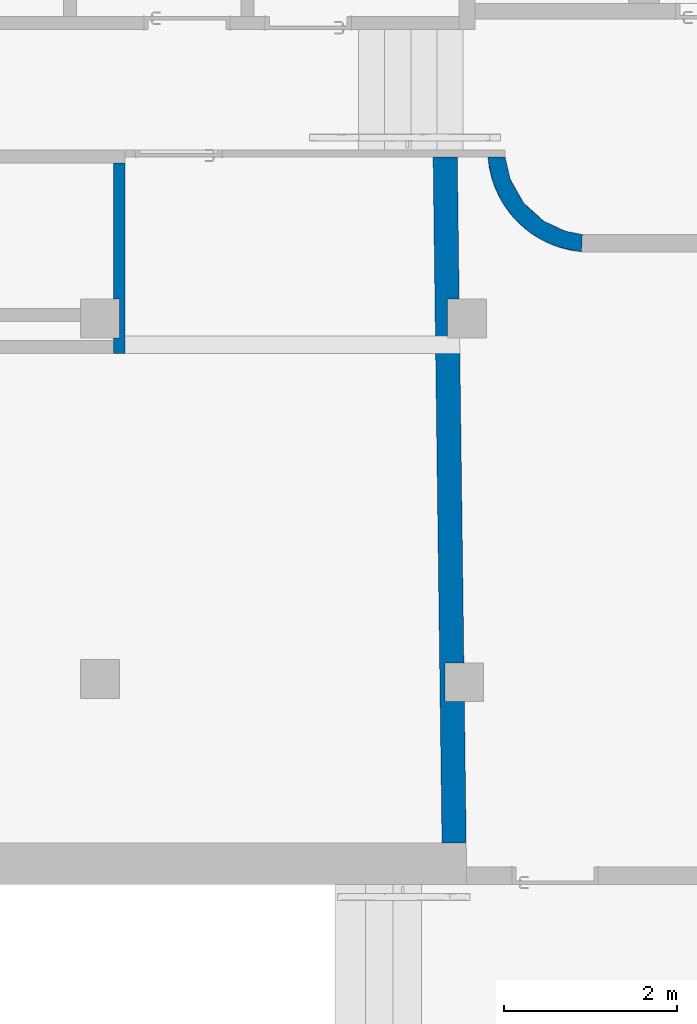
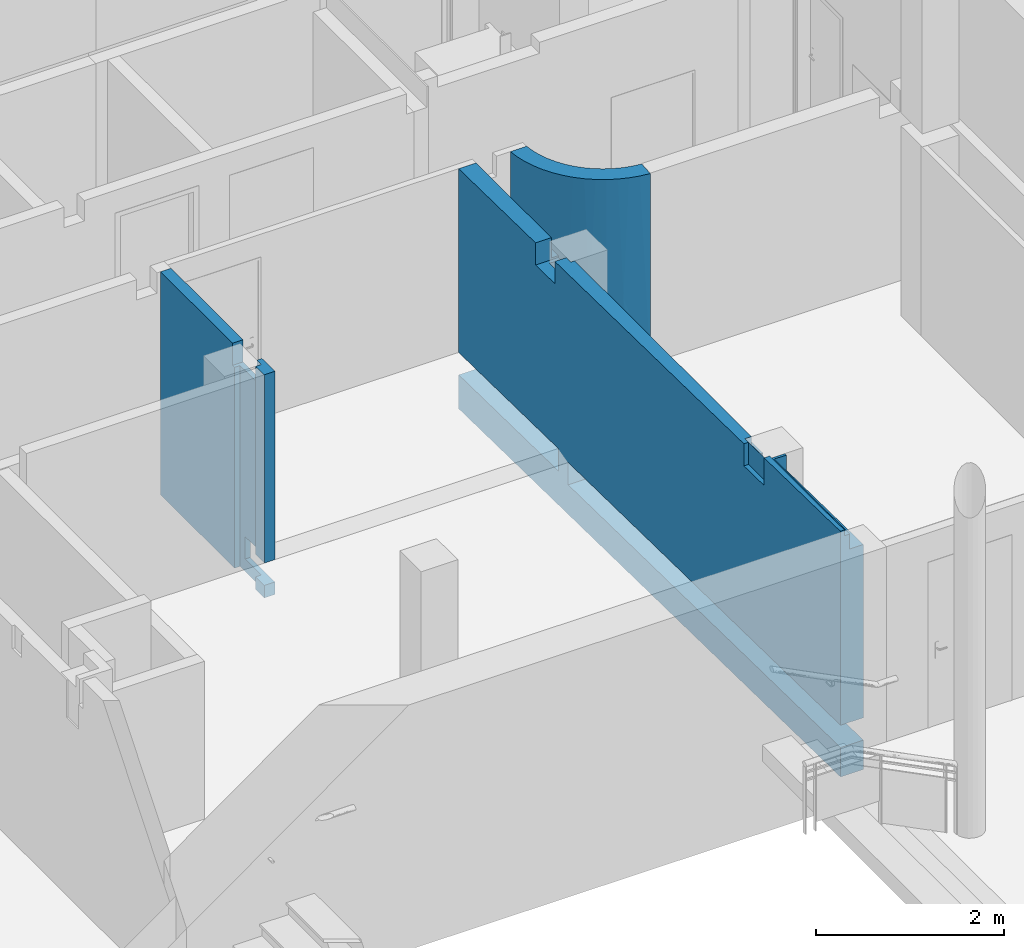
# One storey, part 28 of 39: 3 walls.
"""IFC4 building model written with IfcOpenShell, lengths in metres."""

import ifcopenshell
import ifcopenshell.guid

model = None  # the IFC model being written
_history = None  # IfcOwnerHistory: only IFC2X3 demands one
_inside = {}  # id of a spatial element -> (the spatial element, [elements in it])
_under = {}  # id of a project, library or spatial element -> (it, [spatial elements below it])
_declared = {}  # id of a project -> (the project, [libraries it declares])
_typed = {}  # id of a type object -> (the type object, [elements of that type])
_made_of = {}  # id of a material, layer set ... -> (it, [elements and type objects made of it])


def new_model(schema):
    """Start an empty IFC model of exactly this schema.

    Asked for "IFC4X3", IfcOpenShell would pick the latest addendum, in which some entities
    have other attributes; the version numbers below select the first issue.
    IFC2X3 requires an IfcOwnerHistory on every rooted entity: one is made here for all.
    """
    global model, _history
    if schema == "IFC4X3":
        model = ifcopenshell.file(schema_version=(4, 3, 0, 0))
    else:
        model = ifcopenshell.file(schema=schema)
    _inside.clear()
    _under.clear()
    _declared.clear()
    _typed.clear()
    _made_of.clear()
    _history = None
    if model.schema == "IFC2X3":
        org = make("IfcOrganization", Name="unknown")
        user = make(
            "IfcPersonAndOrganization",
            ThePerson=make("IfcPerson", FamilyName="unknown"),
            TheOrganization=org,
        )
        app = make(
            "IfcApplication",
            ApplicationDeveloper=org,
            Version="unknown",
            ApplicationFullName="unknown",
            ApplicationIdentifier="unknown",
        )
        _history = make(
            "IfcOwnerHistory",
            OwningUser=user,
            OwningApplication=app,
            ChangeAction="ADDED",
            CreationDate=0,
        )
    return model


def make(cls, **values):
    """One entity of the class cls with the attributes given. An attribute that is None is left unset."""
    return model.create_entity(
        cls, **{name: value for name, value in values.items() if value is not None}
    )


def entity(cls, *values):
    """Any entity or typed value of the class cls, its attributes in the order of the schema. None: left unset."""
    e = model.create_entity(cls)
    for i, value in enumerate(values):
        if value is not None:
            e[i] = value
    return e


def rooted(cls, **values):
    """An entity with a GlobalId (a new one), such as an element, a storey or a relation."""
    return make(cls, GlobalId=ifcopenshell.guid.new(), OwnerHistory=_history, **values)


def si_unit(unit_type, name, prefix=None):
    """IfcSIUnit, for example si_unit("LENGTHUNIT", "METRE", prefix="MILLI")."""
    return make("IfcSIUnit", UnitType=unit_type, Prefix=prefix, Name=name)


def converted_unit(unit_type, name, factor, base, dimensions=None, offset=None):
    """IfcConversionBasedUnit, such as the inch: factor (a typed value) times the base unit."""
    return make(
        "IfcConversionBasedUnit"
        if offset is None
        else "IfcConversionBasedUnitWithOffset",
        ConversionOffset=offset,
        Dimensions=None
        if dimensions is None
        else entity("IfcDimensionalExponents", *dimensions),
        UnitType=unit_type,
        Name=name,
        ConversionFactor=make(
            "IfcMeasureWithUnit", ValueComponent=factor, UnitComponent=base
        ),
    )


def derived_unit(unit_type, elements):
    """IfcDerivedUnit: a product of units, each with its exponent."""
    return make(
        "IfcDerivedUnit",
        Elements=[
            make("IfcDerivedUnitElement", Unit=unit, Exponent=power)
            for unit, power in elements
        ],
        UnitType=unit_type,
    )


def assignment(units):
    """IfcUnitAssignment: the units of a project."""
    return None if units is None else make("IfcUnitAssignment", Units=units)


def point(xyz):
    """IfcCartesianPoint."""
    return None if xyz is None else make("IfcCartesianPoint", Coordinates=xyz)


def direction(xyz):
    """IfcDirection."""
    return None if xyz is None else make("IfcDirection", DirectionRatios=xyz)


def frame(location, z_axis=None, x_axis=None):
    """IfcAxis2Placement3D, a coordinate frame: its origin and axes. An axis left out is left unset."""
    return make(
        "IfcAxis2Placement3D",
        Location=point(location),
        Axis=direction(z_axis),
        RefDirection=direction(x_axis),
    )


def origin():
    """The frame at (0, 0, 0) with its axes left unset."""
    return frame((0.0, 0.0, 0.0))


def place(relative_to, where):
    """IfcLocalPlacement: puts the frame where relative to a parent placement (None: the world)."""
    return make(
        "IfcLocalPlacement", PlacementRelTo=relative_to, RelativePlacement=where
    )


def context(
    kind, dimensions, precision=None, world=None, true_north=None, identifier=None
):
    """IfcGeometricRepresentationContext, for example the 3D "Model" context."""
    return make(
        "IfcGeometricRepresentationContext",
        ContextIdentifier=identifier,
        ContextType=kind,
        CoordinateSpaceDimension=dimensions,
        Precision=precision,
        WorldCoordinateSystem=world,
        TrueNorth=true_north,
    )


def subcontext(parent, identifier, kind, view, scale=None):
    """IfcGeometricRepresentationSubContext, for example "Body" below "Model"."""
    return make(
        "IfcGeometricRepresentationSubContext",
        ContextIdentifier=identifier,
        ContextType=kind,
        ParentContext=parent,
        TargetScale=scale,
        TargetView=view,
    )


def project(units=None, contexts=None):
    """IfcProject with its units and contexts."""
    return rooted(
        "IfcProject",
        Name="project",
        RepresentationContexts=contexts,
        UnitsInContext=assignment(units),
    )


def spatial(cls, under=None, at=None, **own):
    """A site, building, storey or space (cls), placed at a placement, below another one or the project."""
    s = rooted(cls, ObjectPlacement=at, **own)
    if under is not None:
        _under.setdefault(under.id(), (under, []))[1].append(s)
    return s


def point_list(points):
    """IfcCartesianPointList2D or 3D."""
    cls = (
        "IfcCartesianPointList2D" if len(points[0]) == 2 else "IfcCartesianPointList3D"
    )
    return make(cls, CoordList=points)


def polygons(points, faces, closed=None, point_numbers=None):
    """IfcPolygonalFaceSet: a face is its outer loop, then its inner loops; points numbered from 1."""
    made = []
    for loops in faces:
        if len(loops) == 1:
            made.append(make("IfcIndexedPolygonalFace", CoordIndex=loops[0]))
        else:
            made.append(
                make(
                    "IfcIndexedPolygonalFaceWithVoids",
                    CoordIndex=loops[0],
                    InnerCoordIndices=loops[1:],
                )
            )
    return make(
        "IfcPolygonalFaceSet",
        Coordinates=point_list(points),
        Closed=closed,
        Faces=made,
        PnIndex=point_numbers,
    )


def shape(context_of_items, identifier, shape_type, items):
    """IfcShapeRepresentation: the items that make up one representation, for example the "Body"."""
    return make(
        "IfcShapeRepresentation",
        ContextOfItems=context_of_items,
        RepresentationIdentifier=identifier,
        RepresentationType=shape_type,
        Items=items,
    )


def material(Name=None, Category=None):
    """IfcMaterial."""
    return make("IfcMaterial", Name=Name, Category=Category)


def layer(
    of_material, thickness, ventilated=None, Name=None, Category=None, Priority=None
):
    """IfcMaterialLayer: one layer of a wall or slab, of a material (None: an air gap)."""
    return make(
        "IfcMaterialLayer",
        Material=of_material,
        LayerThickness=thickness,
        IsVentilated=ventilated,
        Name=Name,
        Category=Category,
        Priority=Priority,
    )


def layer_set(layers, Name=None):
    """IfcMaterialLayerSet."""
    return make("IfcMaterialLayerSet", MaterialLayers=layers, LayerSetName=Name)


def made_of(thing, what):
    """Note that an element or type object is made of a material, layer set ...; save() writes the relation."""
    if what is not None:
        _made_of.setdefault(what.id(), (what, []))[1].append(thing)
    return thing


def type_object(cls, material=None, **own):
    """A type object (cls), such as IfcWallType, which elements share."""
    return made_of(rooted(cls, **own), material)


def element(
    cls,
    number,
    at=None,
    inside=None,
    cuts=None,
    type_object=None,
    material=None,
    context=None,
    identifier="Body",
    shape_type=None,
    held_by="IfcProductDefinitionShape",
    body=None,
    shapes=None,
    **own,
):
    """One element of the class cls, such as IfcWall. Its Tag is "e" and its number.

    at: its placement. inside: the storey or other place that contains it. cuts: it is an
    opening in that element (IfcRelVoidsElement). A single representation is given by context,
    identifier, shape_type and body (its items); several are given by shapes. held_by: the class
    of the entity that holds the representations. save() writes the other relations.
    """
    e = rooted(cls, Tag="e%d" % number, ObjectPlacement=at, **own)
    if body is not None:
        shapes = [shape(context, identifier, shape_type, body)]
    if shapes is not None:
        e.Representation = make(held_by, Representations=shapes)
    if inside is not None:
        _inside.setdefault(inside.id(), (inside, []))[1].append(e)
    if cuts is not None:
        rooted(
            "IfcRelVoidsElement", RelatingBuildingElement=cuts, RelatedOpeningElement=e
        )
    if type_object is not None:
        _typed.setdefault(type_object.id(), (type_object, []))[1].append(e)
    return made_of(e, material)


def aggregate(whole, parts):
    """IfcRelAggregates: a whole, such as a stair, and the parts it consists of."""
    return rooted("IfcRelAggregates", RelatingObject=whole, RelatedObjects=parts)


def save(model, path):
    """Write the relations noted so far, then the file.

    IfcRelAggregates (storeys below a building ...), IfcRelContainedInSpatialStructure (elements
    in a storey), IfcRelDefinesByType, IfcRelAssociatesMaterial and IfcRelDeclares: one each for
    every whole, place, type object, material and project.
    """
    for whole, parts in _under.values():
        aggregate(whole, parts)
    for where, things in _inside.values():
        rooted(
            "IfcRelContainedInSpatialStructure",
            RelatedElements=things,
            RelatingStructure=where,
        )
    for kind, things in _typed.values():
        rooted("IfcRelDefinesByType", RelatedObjects=things, RelatingType=kind)
    for what, things in _made_of.values():
        rooted("IfcRelAssociatesMaterial", RelatedObjects=things, RelatingMaterial=what)
    for by, libraries in _declared.values():
        rooted("IfcRelDeclares", RelatingContext=by, RelatedDefinitions=libraries)
    model.write(path)


model = new_model("IFC4")

# Units and contexts
model_context = context("Model", 3, precision=1e-05, world=origin(), true_north=direction((6.12303176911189e-17, 1.0)))
body_context = subcontext(model_context, "Body", "Model", "MODEL_VIEW")
ifc_project = project(units=[si_unit("LENGTHUNIT", "METRE"), si_unit("AREAUNIT", "SQUARE_METRE"), si_unit("VOLUMEUNIT", "CUBIC_METRE"), converted_unit("PLANEANGLEUNIT", "DEGREE", entity("IfcRatioMeasure", 0.0174532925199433), si_unit("PLANEANGLEUNIT", "RADIAN"), dimensions=[0, 0, 0, 0, 0, 0, 0]), si_unit("MASSUNIT", "GRAM", prefix="KILO"), derived_unit("MASSDENSITYUNIT", [(si_unit("MASSUNIT", "GRAM", prefix="KILO"), 1), (si_unit("LENGTHUNIT", "METRE"), -3)]), derived_unit("MOMENTOFINERTIAUNIT", [(si_unit("LENGTHUNIT", "METRE"), 4)]), si_unit("TIMEUNIT", "SECOND"), si_unit("FREQUENCYUNIT", "HERTZ"), si_unit("THERMODYNAMICTEMPERATUREUNIT", "DEGREE_CELSIUS"), derived_unit("THERMALTRANSMITTANCEUNIT", [(si_unit("MASSUNIT", "GRAM", prefix="KILO"), 1), (si_unit("THERMODYNAMICTEMPERATUREUNIT", "KELVIN"), -1), (si_unit("TIMEUNIT", "SECOND"), -3)]), derived_unit("VOLUMETRICFLOWRATEUNIT", [(si_unit("LENGTHUNIT", "METRE"), 3), (si_unit("TIMEUNIT", "SECOND"), -1)]), si_unit("ELECTRICCURRENTUNIT", "AMPERE"), si_unit("ELECTRICVOLTAGEUNIT", "VOLT"), si_unit("POWERUNIT", "WATT"), si_unit("FORCEUNIT", "NEWTON", prefix="KILO"), si_unit("ILLUMINANCEUNIT", "LUX"), si_unit("LUMINOUSFLUXUNIT", "LUMEN"), si_unit("LUMINOUSINTENSITYUNIT", "CANDELA"), derived_unit("USERDEFINED", [(si_unit("MASSUNIT", "GRAM", prefix="KILO"), -1), (si_unit("LENGTHUNIT", "METRE"), -2), (si_unit("TIMEUNIT", "SECOND"), 3), (si_unit("LUMINOUSFLUXUNIT", "LUMEN"), 1)]), derived_unit("LINEARVELOCITYUNIT", [(si_unit("LENGTHUNIT", "METRE"), 1), (si_unit("TIMEUNIT", "SECOND"), -1)]), si_unit("PRESSUREUNIT", "PASCAL"), derived_unit("USERDEFINED", [(si_unit("LENGTHUNIT", "METRE"), -2), (si_unit("MASSUNIT", "GRAM", prefix="KILO"), 1), (si_unit("TIMEUNIT", "SECOND"), -2)]), derived_unit("LINEARFORCEUNIT", [(si_unit("MASSUNIT", "GRAM", prefix="KILO"), 1), (si_unit("LENGTHUNIT", "METRE"), 1), (si_unit("TIMEUNIT", "SECOND"), -2), (si_unit("LENGTHUNIT", "METRE"), -1)]), derived_unit("PLANARFORCEUNIT", [(si_unit("MASSUNIT", "GRAM", prefix="KILO"), 1), (si_unit("LENGTHUNIT", "METRE"), 1), (si_unit("TIMEUNIT", "SECOND"), -2), (si_unit("LENGTHUNIT", "METRE"), -2)])], contexts=[model_context])

# Site, building, storey
site_placement = place(None, origin())
site = spatial("IfcSite", under=ifc_project, at=site_placement, Name="Default", CompositionType="ELEMENT")
building_placement = place(site_placement, origin())
building = spatial("IfcBuilding", under=site, at=building_placement, Name="HOTEL CONSULAIRE BOULOGNE SUR MER", CompositionType="ELEMENT")
storey_placement = place(building_placement, frame((0.0, 0.0, -5.02343668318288)))
storey = spatial("IfcBuildingStorey", under=building, at=storey_placement, Name="SS3", CompositionType="ELEMENT", Elevation=-5.02343668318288)

# Walls
ifc_material = material(Name="Mur par défaut", Category="Divers")
ifc_layer_1 = layer(ifc_material, 0.13, Name="Mur par défaut", Category="Divers")
ifc_layer_set_1 = layer_set([ifc_layer_1], Name="Mur de base:Générique - Int. 130 mm")
wall_type_1 = type_object("IfcWallType", Name="Mur de base:Générique - Int. 130 mm", PredefinedType="NOTDEFINED", material=ifc_layer_set_1)
wall_1_placement = place(storey_placement, frame((3.19305497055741, -16.0242732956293, -0.43), z_axis=(0.0, 0.0, 1.0), x_axis=(0.0, 1.0, 0.0)))
element("IfcWall", 1, at=wall_1_placement, inside=storey, type_object=wall_type_1, material=ifc_layer_set_1, Name="Mur de base:Générique - Int. 130 mm", ObjectType="Mur de base:Générique - Int. 130 mm", PredefinedType="NOTDEFINED", context=body_context, shape_type="Tessellation", body=[
    polygons([(2.16573425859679e-15, 0.0649999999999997, 0.0), (2.16573425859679e-15, -0.0650000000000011, 0.0), (2.16573425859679e-15, -0.0650000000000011, 0.162), (2.16573425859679e-15, 0.0649999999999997, 0.162), (0.183363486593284, 0.0649999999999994, 0.0), (0.183363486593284, 0.0649999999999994, 0.162), (2.16573425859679e-15, 0.0649999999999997, 2.89399047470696), (0.0, -0.0650000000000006, 2.89399047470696), (0.276363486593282, -0.0650000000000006, 2.89399047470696), (0.276363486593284, -0.00312180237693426, 2.89399047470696), (0.183363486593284, -0.00312180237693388, 2.89399047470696), (0.183363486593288, 0.065, 2.89399047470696), (0.150000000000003, 0.0649999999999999, 2.89399047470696), (0.183363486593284, -0.00312180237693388, 0.0), (0.183363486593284, -0.00312180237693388, 0.162), (0.183363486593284, 0.0649999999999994, 0.452), (2.16573425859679e-15, 0.0649999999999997, 0.452), (0.374363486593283, -0.0650000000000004, 0.0), (2.20536348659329, -0.0650000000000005, 0.0), (2.20536348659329, -0.0650000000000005, 2.89399047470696), (0.676363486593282, -0.0650000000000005, 2.89399047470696), (0.676363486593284, -0.0650000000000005, 2.60599999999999), (0.276363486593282, -0.0650000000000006, 2.60599999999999), (2.16573425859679e-15, -0.0650000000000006, 0.452), (0.524363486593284, -0.0650000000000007, 0.452), (0.524363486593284, -0.0650000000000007, 0.162), (2.20536348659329, 0.0649999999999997, 0.0), (0.633363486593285, 0.0649999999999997, 0.0), (0.633363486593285, 0.0649999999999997, 2.60599999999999), (0.676363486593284, 0.0649999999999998, 2.60599999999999), (0.676363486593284, 0.0649999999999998, 2.89399047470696), (2.20536348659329, 0.0649999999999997, 2.89399047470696), (0.633363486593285, -0.0031218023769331, 0.0), (0.524363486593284, -0.00312180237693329, 0.162), (0.524363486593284, -0.00312180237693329, 0.452), (0.183363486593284, -0.00312180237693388, 0.452), (0.276363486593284, -0.00312180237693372, 2.60599999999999), (0.633363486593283, -0.0031218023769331, 2.60599999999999)], [[[4, 1, 2, 3]], [[33, 38, 29, 28]], [[7, 17, 24, 8]], [[35, 34, 26, 25]], [[30, 22, 21, 31]], [[6, 5, 1, 4]], [[12, 16, 17, 7, 13]], [[32, 27, 28, 29, 30, 31]], [[37, 38, 33, 14, 15, 34, 35, 36, 11, 10]], [[9, 10, 11, 12, 13, 7, 8]], [[15, 6, 4, 3, 26, 34]], [[31, 21, 20, 32]], [[23, 22, 30, 29, 38, 37]], [[5, 6, 15, 14]], [[19, 27, 32, 20]], [[36, 16, 12, 11]], [[10, 9, 23, 37]], [[24, 25, 26, 3, 2, 18, 19, 20, 21, 22, 23, 9, 8]], [[2, 1, 5, 14, 33, 28, 27, 19, 18]], [[25, 24, 17, 16, 36, 35]]], closed=True),
])
ifc_layer_2 = layer(ifc_material, 0.2, Name="Mur par défaut", Category="Divers")
ifc_layer_set_2 = layer_set([ifc_layer_2], Name="Mur de base:Générique - Int.200")
wall_type_2 = type_object("IfcWallType", Name="Mur de base:Générique - Int.200", PredefinedType="NOTDEFINED", material=ifc_layer_set_2)
wall_2_placement = place(storey_placement, frame((7.56009348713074, -13.7413889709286, -0.649999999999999)))
element("IfcWall", 2, at=wall_2_placement, inside=storey, type_object=wall_type_2, material=ifc_layer_set_2, Name="Mur de base:Générique - Int.200", ObjectType="Mur de base:Générique - Int.200", PredefinedType="NOTDEFINED", context=body_context, shape_type="Tessellation", body=[
    polygons([(0.100966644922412, -0.00752083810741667, 0.0), (0.116098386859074, -0.111978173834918, 0.0), (0.142265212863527, -0.214230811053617, 0.0), (0.179169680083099, -0.313116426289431, 0.0), (0.226392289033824, -0.407510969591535, 0.0), (0.283396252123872, -0.496341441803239, 0.0), (0.349533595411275, -0.578598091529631, 0.0), (0.42405252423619, -0.653345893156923, 0.0), (0.506105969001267, -0.719735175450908, 0.0), (0.59476121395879, -0.777011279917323, 0.0), (0.689010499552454, -0.824523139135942, 0.0), (0.78778247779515, -0.861730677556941, 0.0), (0.889954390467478, -0.888210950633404, 0.0), (0.994364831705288, -0.903662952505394, 0.0), (0.985430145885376, -1.10366295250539, 0.0), (0.866722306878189, -1.08745185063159, 0.0), (0.750246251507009, -1.05938622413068, 0.0), (0.637182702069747, -1.01975057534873, 0.0), (0.528677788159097, -0.968946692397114, 0.0), (0.42583142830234, -0.907489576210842, 0.0), (0.329686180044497, -0.836002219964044, 0.0), (0.241216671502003, -0.755209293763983, 0.0), (0.161319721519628, -0.665929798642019, 0.0), (0.0908052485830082, -0.569068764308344, 0.0), (0.0303880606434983, -0.465608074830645, 0.0), (-0.0193193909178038, -0.35659651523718, 0.0), (-0.0578132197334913, -0.243139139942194, 0.0), (-0.0847032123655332, -0.1263860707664, 0.0), (-0.0997167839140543, -0.00752083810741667, 0.0), (0.100966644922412, -0.00752083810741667, 3.11399047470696), (0.116098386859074, -0.111978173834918, 3.11399047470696), (0.142265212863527, -0.214230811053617, 3.11399047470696), (0.179169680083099, -0.313116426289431, 3.11399047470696), (0.226392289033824, -0.407510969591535, 3.11399047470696), (0.283396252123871, -0.496341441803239, 3.11399047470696), (0.349533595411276, -0.578598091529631, 3.11399047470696), (0.42405252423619, -0.653345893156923, 3.11399047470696), (0.506105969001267, -0.719735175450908, 3.11399047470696), (0.59476121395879, -0.777011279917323, 3.11399047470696), (0.689010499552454, -0.824523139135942, 3.11399047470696), (0.78778247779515, -0.861730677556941, 3.11399047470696), (0.889954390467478, -0.888210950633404, 3.11399047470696), (0.994364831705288, -0.903662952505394, 3.11399047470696), (0.994364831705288, -0.903662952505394, 0.916746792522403), (0.549669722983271, -0.749555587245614, 1.55699523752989), (0.315367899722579, -0.538351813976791, 1.55699523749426), (0.100966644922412, -0.00752083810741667, 2.19724567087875), (0.159398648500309, -0.264165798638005, 1.5569952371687), (0.798673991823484, -0.865113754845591, 1.55699523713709), (0.985430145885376, -1.10366295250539, 0.359999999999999), (0.985430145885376, -1.10366295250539, 0.649999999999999), (0.985430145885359, -1.10366295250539, 3.11399047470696), (0.866722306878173, -1.08745185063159, 3.11399047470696), (0.750246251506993, -1.05938622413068, 3.11399047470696), (0.637182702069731, -1.01975057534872, 3.11399047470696), (0.528677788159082, -0.968946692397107, 3.11399047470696), (0.425831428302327, -0.907489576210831, 3.11399047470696), (0.329686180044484, -0.836002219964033, 3.11399047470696), (0.241216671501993, -0.75520929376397, 3.11399047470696), (0.161319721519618, -0.665929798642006, 3.11399047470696), (0.0908052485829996, -0.569068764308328, 3.11399047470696), (0.0303880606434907, -0.465608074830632, 3.11399047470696), (-0.0193193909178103, -0.356596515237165, 3.11399047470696), (-0.0578132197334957, -0.243139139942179, 3.11399047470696), (-0.0847032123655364, -0.126386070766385, 3.11399047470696), (-0.0997167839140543, -0.007520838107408, 3.11399047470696), (-0.0997167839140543, -0.007520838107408, 0.649999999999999), (-0.0997167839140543, -0.007520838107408, 0.359999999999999), (0.0592937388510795, -0.518099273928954, 1.55699523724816), (-0.0399951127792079, -0.300352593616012, 1.55699523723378), (0.20014386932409, -0.711575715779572, 1.55699523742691), (0.376858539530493, -0.872956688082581, 1.55699523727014), (0.693215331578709, -1.04099224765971, 1.55699523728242), (0.528677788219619, -0.968946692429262, 1.80994659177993)], [[[19, 20, 21, 22, 23, 24, 25, 26, 27, 28, 29, 1, 2, 3, 4, 5, 6, 7, 8, 9, 10, 11, 12, 13, 14, 15, 16, 17, 18]], [[49, 41, 42]], [[45, 40, 49]], [[45, 38, 39]], [[45, 39, 40]], [[45, 49, 11]], [[36, 37, 46]], [[37, 38, 45]], [[44, 14, 13]], [[10, 45, 11]], [[49, 42, 43]], [[8, 7, 46]], [[49, 44, 13]], [[48, 3, 2]], [[12, 11, 49]], [[9, 45, 10]], [[31, 47, 30]], [[47, 2, 1]], [[45, 9, 8]], [[34, 35, 46]], [[45, 46, 37]], [[12, 49, 13]], [[35, 36, 46]], [[34, 48, 33]], [[47, 31, 48]], [[33, 48, 32]], [[48, 5, 4]], [[46, 7, 6]], [[46, 6, 5]], [[40, 41, 49]], [[43, 44, 49]], [[48, 34, 46]], [[48, 46, 5]], [[48, 4, 3]], [[48, 2, 47]], [[46, 45, 8]], [[31, 32, 48]], [[68, 29, 28, 67]], [[66, 67, 65]], [[28, 27, 70]], [[25, 24, 69]], [[25, 69, 70, 26]], [[70, 27, 26]], [[71, 69, 24, 23]], [[64, 70, 63]], [[65, 67, 70]], [[67, 28, 70]], [[22, 71, 23]], [[65, 70, 64]], [[62, 63, 70, 69]], [[73, 17, 16]], [[58, 72, 57]], [[61, 69, 71, 60]], [[20, 19, 74]], [[74, 56, 57]], [[71, 59, 60]], [[22, 21, 72, 71]], [[72, 21, 20]], [[74, 19, 18]], [[55, 56, 74]], [[16, 51, 73]], [[73, 18, 17]], [[18, 73, 74]], [[50, 51, 16, 15]], [[53, 51, 52]], [[74, 72, 20]], [[74, 57, 72]], [[71, 72, 58, 59]], [[55, 74, 73]], [[53, 54, 73]], [[62, 69, 61]], [[53, 73, 51]], [[55, 73, 54]], [[1, 29, 68, 67, 66, 30, 47]], [[50, 15, 14, 44, 43, 52, 51]], [[63, 62, 61, 60, 59, 58, 57, 56, 55, 54, 53, 52, 43, 42, 41, 40, 39, 38, 37, 36, 35, 34, 33, 32, 31, 30, 66, 65, 64]]], closed=True),
])
ifc_layer_3 = layer(ifc_material, 0.28, Name="Mur par défaut", Category="Divers")
ifc_layer_set_3 = layer_set([ifc_layer_3], Name="Mur de base:Générique - Int. 280mm")
wall_type_3 = type_object("IfcWallType", Name="Mur de base:Générique - Int. 280mm", PredefinedType="NOTDEFINED", material=ifc_layer_set_3)
wall_3_placement = place(storey_placement, frame((7.06942401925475, -21.6910334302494, -0.649999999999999), z_axis=(0.0, 0.0, 1.0), x_axis=(-0.0129598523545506, 0.999916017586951, 0.0)))
element("IfcWall", 3, at=wall_3_placement, inside=storey, type_object=wall_type_3, material=ifc_layer_set_3, Name="Mur de base:Générique - Int. 280mm", ObjectType="Mur de base:Générique - Int. 280mm", PredefinedType="NOTDEFINED", context=body_context, shape_type="Tessellation", body=[
    polygons([(6.34184184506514, -0.14, 2.84999999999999), (6.34184184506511, -0.14, 2.82599999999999), (6.29583798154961, -0.14, 2.82599999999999), (6.29583798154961, -0.14, 0.73), (7.94097614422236, -0.14, 0.73), (7.94097614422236, -0.14, 2.84999999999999), (1.60398932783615, -0.14, 2.91999999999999), (0.0, -0.14, 2.91999999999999), (0.0, -0.14, 0.672), (1.63515635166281, -0.14, 0.672), (1.6351563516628, -0.139999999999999, 3.11399047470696), (1.60398932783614, -0.14, 3.11399047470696), (7.94183227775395, -0.0739451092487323, 2.84999999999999), (7.94460520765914, 0.14, 0.73), (7.94460520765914, 0.14, 3.11399047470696), (7.94183227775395, -0.0739451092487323, 3.11399047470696), (0.00218988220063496, 0.0289601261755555, 2.91999999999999), (0.00218988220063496, 0.0289601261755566, 3.11399047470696), (0.00301297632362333, 0.0924658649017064, 3.11399047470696), (0.00301297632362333, 0.0924658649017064, 3.18999999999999), (0.00362906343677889, 0.140000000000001, 3.18999999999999), (0.00362906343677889, 0.140000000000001, 0.672), (2.08703380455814, 0.00193858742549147, 2.84999999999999), (2.08519414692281, -0.139999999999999, 2.84999999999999), (5.84580018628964, -0.139999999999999, 2.84999999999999), (5.84700822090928, -0.0467942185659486, 2.84999999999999), (2.08703380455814, 0.00193858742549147, 3.11399047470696), (5.84700822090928, -0.0467942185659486, 3.11399047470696), (5.94543731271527, 0.140000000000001, 3.11399047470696), (2.01510723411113, 0.140000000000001, 3.11399047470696), (2.01435247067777, 0.0817663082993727, 3.11399047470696), (1.5973829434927, 0.0871706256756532, 3.11399047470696), (1.59718377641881, 0.0718039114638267, 3.11399047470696), (1.60590980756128, 0.00817440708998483, 3.11399047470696), (1.63808890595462, 0.0862609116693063, 3.11399047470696), (2.08805111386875, 0.0804289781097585, 3.11399047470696), (5.84761382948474, -6.85539187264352e-05, 3.11399047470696), (5.94360576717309, -0.00131269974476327, 3.11399047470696), (0.0, -0.14, 0.0), (7.94097614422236, -0.14, 0.0), (7.94097614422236, -0.14, 0.44), (5.86980220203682, -0.14, 0.44), (5.86980220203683, -0.139999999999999, 0.649999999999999), (5.84580018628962, -0.14, 0.649999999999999), (2.0851941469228, -0.14, 0.672), (5.66542155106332, -0.14, 0.672), (5.66542155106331, -0.139999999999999, 0.382), (0.0, -0.14, 0.382), (7.94460520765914, 0.140000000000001, 0.0), (0.00362906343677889, 0.140000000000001, 0.0), (0.00362906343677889, 0.140000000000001, 0.382), (5.6690506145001, 0.140000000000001, 0.382), (5.66905061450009, 0.140000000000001, 0.672), (0.0824769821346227, 0.140000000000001, 3.18999999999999), (0.082476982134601, 0.14, 3.18399047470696), (1.59507195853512, 0.140000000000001, 3.18399047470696), (1.59507195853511, 0.14, 2.82599999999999), (2.01510723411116, 0.140000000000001, 2.82599999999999), (5.94543731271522, 0.14, 2.82599999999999), (6.34547090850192, 0.140000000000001, 2.82599999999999), (6.34547090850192, 0.140000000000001, 3.11399047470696), (5.8734312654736, 0.140000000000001, 0.73), (5.87343126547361, 0.14, 0.44), (7.94460520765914, 0.140000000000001, 0.44), (0.081847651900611, 0.091444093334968, 3.18999999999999), (1.60590980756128, 0.00817440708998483, 2.91999999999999), (5.94360576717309, -0.00131269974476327, 2.82599999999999), (6.29757603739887, -0.0059004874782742, 2.82599999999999), (6.3429665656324, -0.0532223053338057, 2.84999999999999), (6.3429665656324, -0.0532223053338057, 3.11399047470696), (1.59438774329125, 0.087209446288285, 2.82599999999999), (1.59438774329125, 0.087209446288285, 3.18399047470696), (2.01435247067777, 0.0817663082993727, 2.82599999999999), (1.59718377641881, 0.0718039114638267, 3.18399047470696), (0.081847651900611, 0.091444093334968, 3.18399047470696), (1.5973829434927, 0.0871706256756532, 3.18399047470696), (1.63808890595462, 0.0862609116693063, 0.672), (2.08805111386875, 0.0804289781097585, 0.672), (5.84761382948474, -6.85539187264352e-05, 0.649999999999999), (5.87161181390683, -0.000379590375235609, 0.649999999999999), (5.87161181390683, -0.000379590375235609, 0.73), (6.29757603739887, -0.0059004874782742, 0.73)], [[[2, 3, 4, 5, 6, 1]], [[9, 10, 11, 12, 7, 8]], [[39, 40, 41, 42, 43, 44, 25, 24, 45, 46, 47, 48]], [[13, 6, 5, 14, 15, 16]], [[40, 49, 64, 41]], [[29, 38, 67, 59]], [[57, 56, 72, 71]], [[76, 74, 33, 32]], [[10, 77, 35, 11]], [[37, 28, 26, 25, 44, 79]], [[80, 43, 42, 63, 62, 81]], [[65, 75, 55, 54]], [[8, 17, 18, 19, 20, 21, 22, 9]], [[50, 39, 48, 51]], [[2, 1, 69, 70, 61, 60]], [[58, 73, 31, 30]], [[7, 12, 34, 66]], [[27, 36, 78, 45, 24, 23]], [[4, 3, 68, 82]], [[46, 53, 52, 47]], [[23, 24, 25, 26]], [[29, 30, 31, 32, 33, 19, 18, 34, 12, 11, 35, 36, 27, 28, 37, 38]], [[20, 65, 54, 21]], [[8, 7, 66, 17]], [[68, 3, 2, 60, 59, 67]], [[57, 71, 73, 58]], [[69, 1, 6, 13]], [[61, 70, 16, 15]], [[43, 80, 79, 44]], [[41, 64, 63, 42]], [[47, 52, 51, 48]], [[72, 56, 55, 75, 74, 76]], [[27, 23, 26, 28]], [[17, 66, 34, 18]], [[70, 69, 13, 16]], [[75, 65, 20, 19, 33, 74]], [[77, 78, 36, 35]], [[82, 68, 67, 38, 37, 79, 80, 81]], [[64, 49, 50, 51, 52, 53, 22, 21, 54, 55, 56, 57, 58, 30, 29, 59, 60, 61, 15, 14, 62, 63]], [[40, 39, 50, 49]], [[5, 4, 82, 81, 62, 14]], [[78, 77, 10, 9, 22, 53, 46, 45]], [[72, 76, 32, 31, 73, 71]]], closed=True),
])

save(model, "model.ifc")
